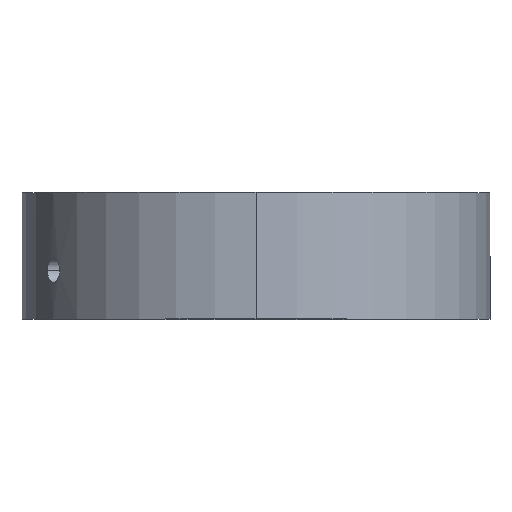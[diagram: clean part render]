
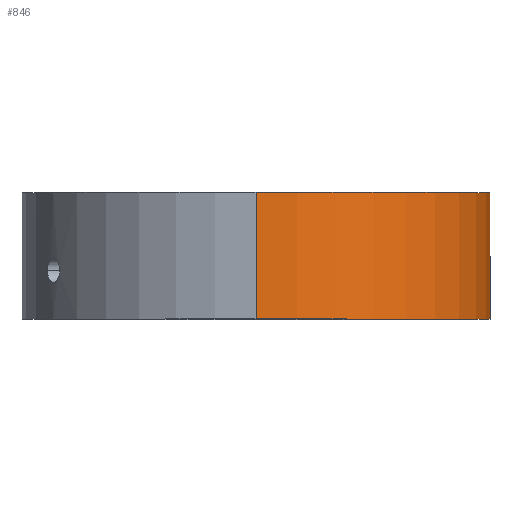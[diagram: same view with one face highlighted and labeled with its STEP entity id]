
A CAD part, top view. The second image highlights one B-rep face of the part: STEP entity #846.
In plain terms, the highlighted cylindrical face has radius 24 mm (diameter 48 mm), a partial arc.
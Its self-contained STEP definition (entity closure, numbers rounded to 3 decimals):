
#52 = EDGE_CURVE ( 'NONE', #283, #1659, #3369, .T. ) ;
#102 = CIRCLE ( 'NONE', #3510, 24. ) ;
#258 = DIRECTION ( 'NONE',  ( 0., -1., 0. ) ) ;
#283 = VERTEX_POINT ( 'NONE', #868 ) ;
#363 = CARTESIAN_POINT ( 'NONE',  ( 0., -21., 24. ) ) ;
#664 = AXIS2_PLACEMENT_3D ( 'NONE', #891, #3086, #2529 ) ;
#668 = CARTESIAN_POINT ( 'NONE',  ( 0., -21., -24. ) ) ;
#776 = EDGE_CURVE ( 'NONE', #283, #1965, #102, .T. ) ;
#785 = ORIENTED_EDGE ( 'NONE', *, *, #1539, .F. ) ;
#795 = AXIS2_PLACEMENT_3D ( 'NONE', #816, #258, #3038 ) ;
#816 = CARTESIAN_POINT ( 'NONE',  ( 0., -21., 0. ) ) ;
#846 = ADVANCED_FACE ( 'NONE', ( #1829 ), #2957, .T. ) ;
#868 = CARTESIAN_POINT ( 'NONE',  ( 0., 5., -24. ) ) ;
#886 = VERTEX_POINT ( 'NONE', #2463 ) ;
#891 = CARTESIAN_POINT ( 'NONE',  ( 0., -8., 0. ) ) ;
#1080 = ORIENTED_EDGE ( 'NONE', *, *, #52, .F. ) ;
#1140 = CIRCLE ( 'NONE', #664, 24. ) ;
#1184 = EDGE_CURVE ( 'NONE', #1965, #886, #1487, .T. ) ;
#1252 = VECTOR ( 'NONE', #1759, 1000. ) ;
#1261 = DIRECTION ( 'NONE',  ( 0., 0., -1. ) ) ;
#1487 = LINE ( 'NONE', #363, #3506 ) ;
#1531 = CARTESIAN_POINT ( 'NONE',  ( 0., 5., 0. ) ) ;
#1539 = EDGE_CURVE ( 'NONE', #1659, #886, #1140, .T. ) ;
#1621 = CARTESIAN_POINT ( 'NONE',  ( 0., -8., -24. ) ) ;
#1659 = VERTEX_POINT ( 'NONE', #1621 ) ;
#1759 = DIRECTION ( 'NONE',  ( 0., -1., 0. ) ) ;
#1829 = FACE_OUTER_BOUND ( 'NONE', #2944, .T. ) ;
#1965 = VERTEX_POINT ( 'NONE', #2844 ) ;
#2062 = ORIENTED_EDGE ( 'NONE', *, *, #1184, .T. ) ;
#2463 = CARTESIAN_POINT ( 'NONE',  ( 0., -8., 24. ) ) ;
#2529 = DIRECTION ( 'NONE',  ( 0., 0., -1. ) ) ;
#2556 = DIRECTION ( 'NONE',  ( 0., -1., 0. ) ) ;
#2632 = DIRECTION ( 'NONE',  ( 0., -1., 0. ) ) ;
#2671 = ORIENTED_EDGE ( 'NONE', *, *, #776, .T. ) ;
#2844 = CARTESIAN_POINT ( 'NONE',  ( 0., 5., 24. ) ) ;
#2944 = EDGE_LOOP ( 'NONE', ( #2671, #2062, #785, #1080 ) ) ;
#2957 = CYLINDRICAL_SURFACE ( 'NONE', #795, 24. ) ;
#3038 = DIRECTION ( 'NONE',  ( 0., 0., -1. ) ) ;
#3086 = DIRECTION ( 'NONE',  ( 0., -1., 0. ) ) ;
#3369 = LINE ( 'NONE', #668, #1252 ) ;
#3506 = VECTOR ( 'NONE', #2556, 1000. ) ;
#3510 = AXIS2_PLACEMENT_3D ( 'NONE', #1531, #2632, #1261 ) ;
